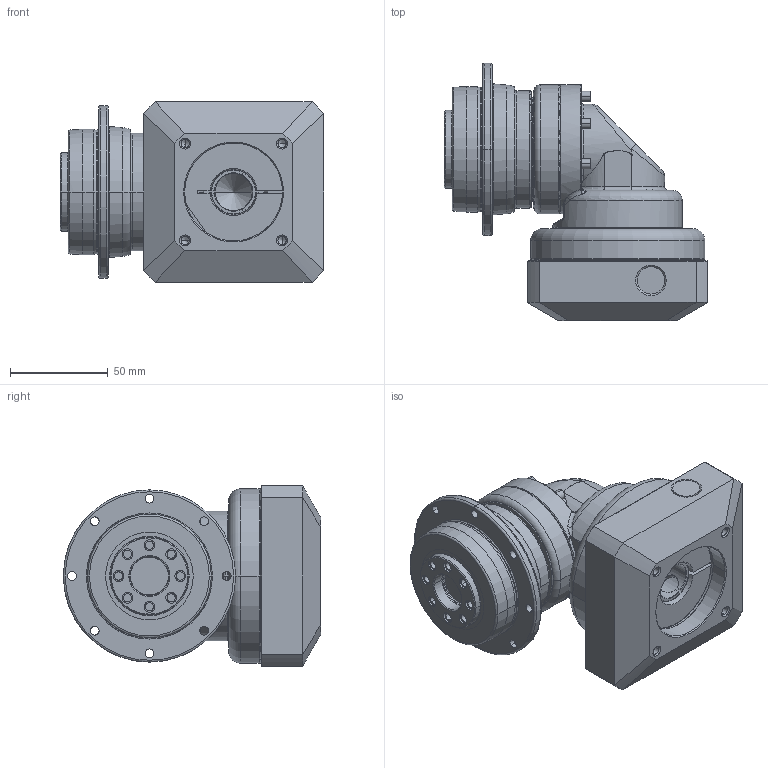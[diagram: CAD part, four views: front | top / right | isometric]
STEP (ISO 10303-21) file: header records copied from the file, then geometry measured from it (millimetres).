
FILE_DESCRIPTION((''),'2;1');
FILE_NAME('PDR064_1ST_19-P0411400101_ASM','2016-06-04T',('d01943'),(''),'PRO/ENGINEER BY PARAMETRIC TECHNOLOGY CORPORATION, 2008410','PRO/ENGINEER BY PARAMETRIC TECHNOLOGY CORPORATION, 2008410','');
FILE_SCHEMA(('CONFIG_CONTROL_DESIGN'));
Length unit declared in the file: millimetre
Products named in the file (10): P1355200001; P0367200001; P0274200001; P1349200001; P1017200001; P1350200301; P0411400101; P0503400008; P0713200301; PDR064_1ST_19-P0411400101_ASM
Assembly tree (9 placements, depth 2):
  PDR064_1ST_19-P0411400101_ASM
    P1355200001
    P0367200001
    P0274200001
    P1349200001
    P1017200001
    P1350200301
    P0411400101
    P0503400008
    P0713200301
Bounding box: 134.5 x 131.5 x 92 mm (x, y, z)
Volume: 561497.9 mm3; surface area: 133270.3 mm2
Topology: 9 solids, 9 shells, 547 faces, 1245 edges, 728 vertices
Faces by surface type: cylinder 188, cone 164, plane 89, torus 76, bspline 30
Entity records: 18209 total; most frequent: CARTESIAN_POINT 5761, DIRECTION 2760, ORIENTED_EDGE 2406, EDGE_CURVE 1203, AXIS2_PLACEMENT_3D 1173, VERTEX_POINT 728, EDGE_LOOP 645, CIRCLE 637
